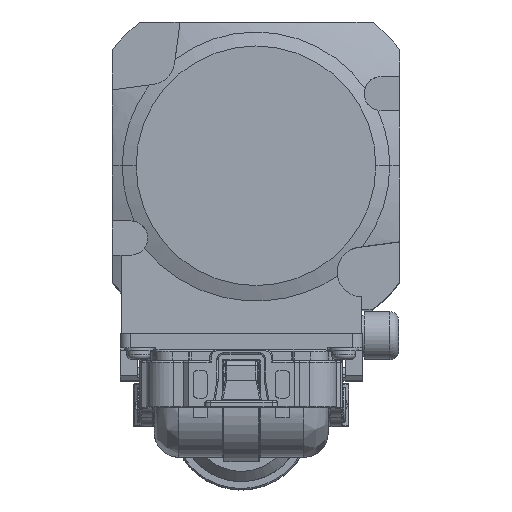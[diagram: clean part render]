
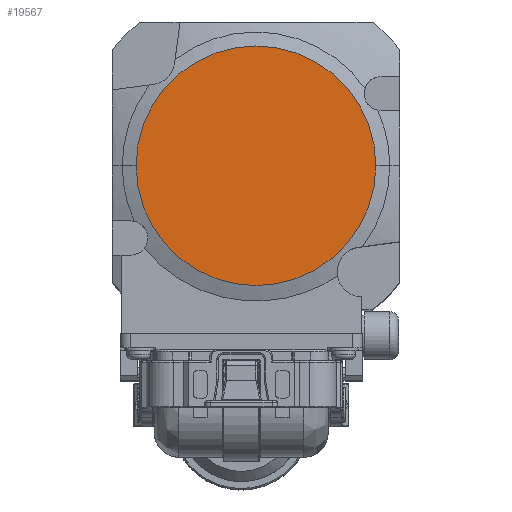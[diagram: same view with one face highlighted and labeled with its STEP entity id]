
A CAD part, top view. The second image highlights one B-rep face of the part: STEP entity #19567.
In plain terms, the highlighted planar face has unit normal (0, 0, 1).
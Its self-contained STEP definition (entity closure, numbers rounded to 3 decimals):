
#1039 = FACE_OUTER_BOUND ( 'NONE', #18809, .T. ) ;
#1218 = EDGE_CURVE ( 'NONE', #31762, #35804, #4004, .T. ) ;
#1741 = ORIENTED_EDGE ( 'NONE', *, *, #24986, .T. ) ;
#3448 = DIRECTION ( 'NONE',  ( 0., 0., 1. ) ) ;
#3723 = ORIENTED_EDGE ( 'NONE', *, *, #1218, .T. ) ;
#4004 = CIRCLE ( 'NONE', #31167, 17.5 ) ;
#5917 = CIRCLE ( 'NONE', #27290, 17.5 ) ;
#6364 = AXIS2_PLACEMENT_3D ( 'NONE', #9377, #20402, #9548 ) ;
#8285 = CARTESIAN_POINT ( 'NONE',  ( -17.5, 0., 98. ) ) ;
#9377 = CARTESIAN_POINT ( 'NONE',  ( 0., 0., 98. ) ) ;
#9548 = DIRECTION ( 'NONE',  ( 1., 0., 0. ) ) ;
#11974 = CARTESIAN_POINT ( 'NONE',  ( 0., 0., 98. ) ) ;
#18809 = EDGE_LOOP ( 'NONE', ( #1741, #3723 ) ) ;
#19567 = ADVANCED_FACE ( 'NONE', ( #1039 ), #34145, .T. ) ;
#20402 = DIRECTION ( 'NONE',  ( 0., 0., 1. ) ) ;
#23159 = DIRECTION ( 'NONE',  ( 1., 0., 0. ) ) ;
#24269 = DIRECTION ( 'NONE',  ( 0., 0., 1. ) ) ;
#24986 = EDGE_CURVE ( 'NONE', #35804, #31762, #5917, .T. ) ;
#27290 = AXIS2_PLACEMENT_3D ( 'NONE', #11974, #3448, #23159 ) ;
#27353 = DIRECTION ( 'NONE',  ( 1., 0., 0. ) ) ;
#29875 = CARTESIAN_POINT ( 'NONE',  ( 0., 0., 98. ) ) ;
#31167 = AXIS2_PLACEMENT_3D ( 'NONE', #29875, #24269, #27353 ) ;
#31762 = VERTEX_POINT ( 'NONE', #35179 ) ;
#34145 = PLANE ( 'NONE',  #6364 ) ;
#35179 = CARTESIAN_POINT ( 'NONE',  ( 17.5, 0., 98. ) ) ;
#35804 = VERTEX_POINT ( 'NONE', #8285 ) ;
